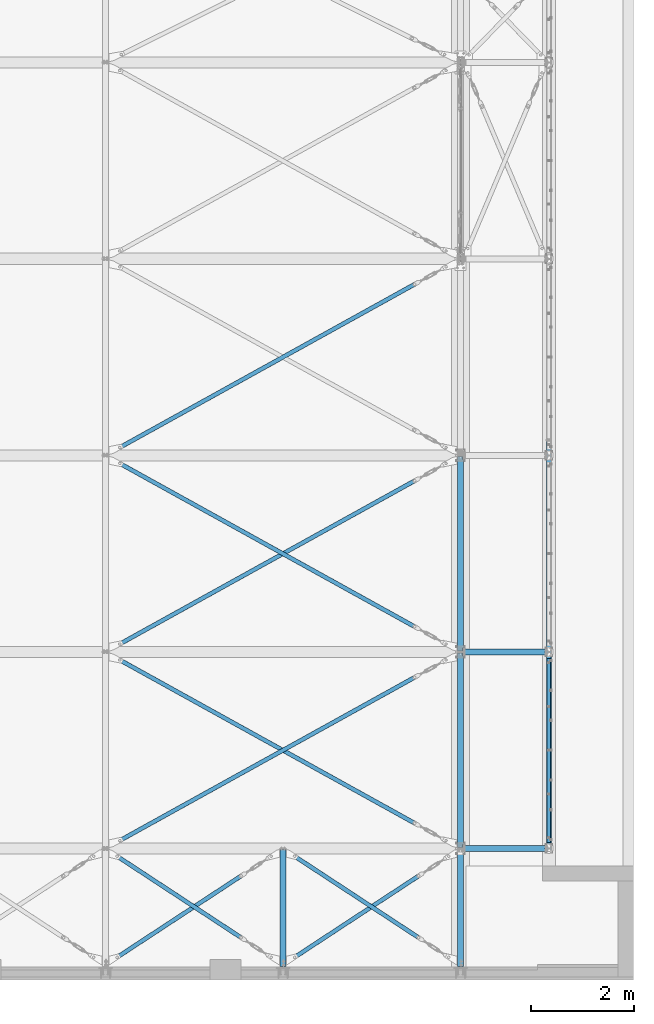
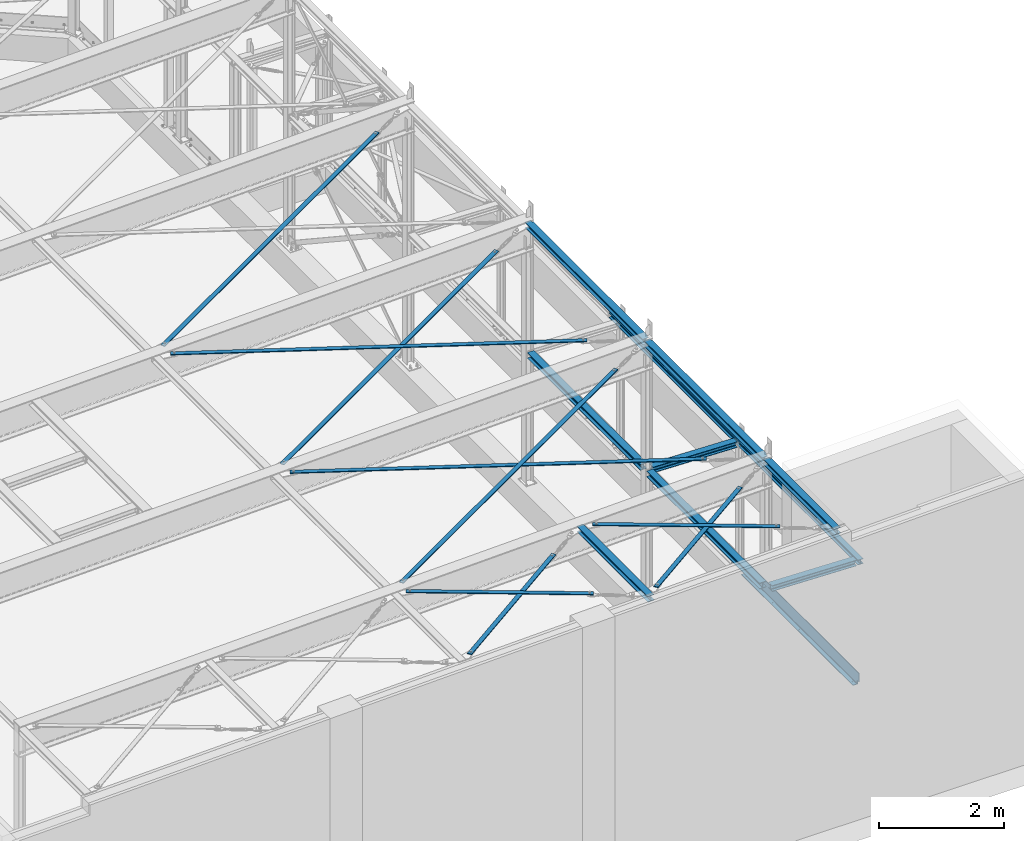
# One storey, part 16 of 476: 11 members, 8 beams, 56 openings.
"""IFC2X3 building model written with IfcOpenShell, lengths in millimetres."""

from ifc_helpers import new_model, entity, si_unit, converted_unit, frame, frame_2d, origin, origin_with_axes, origin_2d, origin_2d_with_axis, place, context, project, spatial, polyline, rectangle, circle, i_section, l_section, outline, extrude, clip, halfspace, material, element, save


model = new_model("IFC2X3")

# Units and contexts
model_context = context("Model", 3, precision=1e-09, world=origin_with_axes())
ifc_project = project(units=[si_unit("LENGTHUNIT", "METRE", prefix="MILLI"), si_unit("AREAUNIT", "SQUARE_METRE"), si_unit("VOLUMEUNIT", "CUBIC_METRE"), converted_unit("PLANEANGLEUNIT", "DEGREE", entity("IfcPlaneAngleMeasure", 0.01745329), si_unit("PLANEANGLEUNIT", "RADIAN"), dimensions=[0, 0, 0, 0, 0, 0, 0])], contexts=[model_context])

# Site, building, storey
site_placement = place(None, origin_with_axes())
site = spatial("IfcSite", under=ifc_project, at=site_placement, Name="mKR Teilneubau & Sanierung BA1 - Ostfildern", CompositionType="ELEMENT")
building_placement = place(site_placement, origin_with_axes())
building = spatial("IfcBuilding", under=site, at=building_placement, Name="Struktur 1", CompositionType="ELEMENT")
storey_placement = place(building_placement, origin_with_axes())
storey = spatial("IfcBuildingStorey", under=building, at=storey_placement, Name="Default Storey", CompositionType="ELEMENT", Elevation=0.0)

# Member, openings
ifc_material = material(Name="S235JR")
member_1_placement = place(None, frame((21128.924203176, -17867.807035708, 5611.516079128), z_axis=(-0.874571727, -0.484183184, -0.026285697), x_axis=(0.030041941, 0.0, -0.999548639)))
member_1 = element("IfcMember", 1, at=member_1_placement, inside=storey, material=ifc_material, Name="-", ObjectType="-", context=model_context, shape_type="SweptSolid", body=[
    extrude(rectangle(XDim=15.0, YDim=80.0, at=origin_2d()), origin(), (0.0, 0.0, 1.0), 6675.65653727),
])
opening_1_placement = place(member_1_placement, frame((8.0, -0.000317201, 6601.156110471), z_axis=(1.0, 0.0, 0.0), x_axis=(0.0, 1.0, 0.0)))
element("IfcOpeningElement", 2, at=opening_1_placement, cuts=member_1, ObjectType="Opening", context=model_context, shape_type="SweptSolid", body=[
    extrude(circle(Radius=14.501, at=frame_2d((0.0, 14.501), x_axis=(1.0, 0.0))), origin(), (0.0, 0.0, -1.0), 16.0),
])
opening_2_placement = place(member_1_placement, frame((8.0, -0.000317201, 45.499573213), z_axis=(1.0, 0.0, 0.0), x_axis=(0.0, 1.0, 0.0)))
element("IfcOpeningElement", 3, at=opening_2_placement, cuts=member_1, ObjectType="Opening", context=model_context, shape_type="SweptSolid", body=[
    extrude(circle(Radius=14.501, at=frame_2d((0.0, 14.501), x_axis=(1.0, 0.0))), origin(), (0.0, 0.0, -1.0), 16.0),
])

member_2_placement = place(None, frame((21128.924203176, -16943.540722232, 5611.516079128), z_axis=(0.874571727, -0.484183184, 0.026285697), x_axis=(0.030041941, 0.0, -0.999548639)))
member_2 = element("IfcMember", 4, at=member_2_placement, inside=storey, material=ifc_material, Name="-", ObjectType="-", context=model_context, shape_type="SweptSolid", body=[
    extrude(rectangle(XDim=15.0, YDim=80.0, at=origin_2d()), origin(), (0.0, 0.0, -1.0), 6675.65653727),
])
opening_3_placement = place(member_2_placement, frame((8.0, -0.000317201, -60.000573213), z_axis=(-1.0, 0.0, 0.0), x_axis=(0.0, 0.0, -1.0)))
element("IfcOpeningElement", 5, at=opening_3_placement, cuts=member_2, ObjectType="Opening", context=model_context, shape_type="SweptSolid", body=[
    extrude(circle(Radius=14.501, at=origin_2d_with_axis()), origin(), (0.0, 0.0, 1.0), 16.0),
])
opening_4_placement = place(member_2_placement, frame((8.0, -0.000317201, -6615.657110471), z_axis=(-1.0, 0.0, 0.0), x_axis=(0.0, 0.0, -1.0)))
element("IfcOpeningElement", 6, at=opening_4_placement, cuts=member_2, ObjectType="Opening", context=model_context, shape_type="SweptSolid", body=[
    extrude(circle(Radius=14.501, at=origin_2d_with_axis()), origin(), (0.0, 0.0, 1.0), 16.0),
])

member_3_placement = place(None, frame((21128.924203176, -14047.807035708, 5611.516079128), z_axis=(-0.874571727, -0.484183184, -0.026285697), x_axis=(0.030041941, 0.0, -0.999548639)))
member_3 = element("IfcMember", 7, at=member_3_placement, inside=storey, material=ifc_material, Name="-", ObjectType="-", context=model_context, shape_type="SweptSolid", body=[
    extrude(rectangle(XDim=15.0, YDim=80.0, at=origin_2d()), origin(), (0.0, 0.0, 1.0), 6675.65653727),
])
opening_5_placement = place(member_3_placement, frame((8.0, -0.000317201, 6601.156110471), z_axis=(1.0, 0.0, 0.0), x_axis=(0.0, 1.0, 0.0)))
element("IfcOpeningElement", 8, at=opening_5_placement, cuts=member_3, ObjectType="Opening", context=model_context, shape_type="SweptSolid", body=[
    extrude(circle(Radius=14.501, at=frame_2d((0.0, 14.501), x_axis=(1.0, 0.0))), origin(), (0.0, 0.0, -1.0), 16.0),
])
opening_6_placement = place(member_3_placement, frame((8.0, -0.000317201, 45.499573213), z_axis=(1.0, 0.0, 0.0), x_axis=(0.0, 1.0, 0.0)))
element("IfcOpeningElement", 9, at=opening_6_placement, cuts=member_3, ObjectType="Opening", context=model_context, shape_type="SweptSolid", body=[
    extrude(circle(Radius=14.501, at=frame_2d((0.0, 14.501), x_axis=(1.0, 0.0))), origin(), (0.0, 0.0, -1.0), 16.0),
])

member_4_placement = place(None, frame((21128.924203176, -10227.807035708, 5611.516079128), z_axis=(-0.874571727, -0.484183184, -0.026285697), x_axis=(0.030041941, 0.0, -0.999548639)))
member_4 = element("IfcMember", 10, at=member_4_placement, inside=storey, material=ifc_material, Name="-", ObjectType="-", context=model_context, shape_type="SweptSolid", body=[
    extrude(rectangle(XDim=15.0, YDim=80.0, at=origin_2d()), origin(), (0.0, 0.0, 1.0), 6675.65653727),
])
opening_7_placement = place(member_4_placement, frame((8.0, -0.000317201, 6601.156110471), z_axis=(1.0, 0.0, 0.0), x_axis=(0.0, 1.0, 0.0)))
element("IfcOpeningElement", 11, at=opening_7_placement, cuts=member_4, ObjectType="Opening", context=model_context, shape_type="SweptSolid", body=[
    extrude(circle(Radius=14.501, at=frame_2d((0.0, 14.501), x_axis=(1.0, 0.0))), origin(), (0.0, 0.0, -1.0), 16.0),
])
opening_8_placement = place(member_4_placement, frame((8.0, -0.000317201, 45.499573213), z_axis=(1.0, 0.0, 0.0), x_axis=(0.0, 1.0, 0.0)))
element("IfcOpeningElement", 12, at=opening_8_placement, cuts=member_4, ObjectType="Opening", context=model_context, shape_type="SweptSolid", body=[
    extrude(circle(Radius=14.501, at=frame_2d((0.0, 14.501), x_axis=(1.0, 0.0))), origin(), (0.0, 0.0, -1.0), 16.0),
])

member_5_placement = place(None, frame((15240.470769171, -23372.366687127, 5434.458017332), z_axis=(0.835791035, 0.548472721, 0.025120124), x_axis=(0.030041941, 0.0, -0.999548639)))
member_5 = element("IfcMember", 13, at=member_5_placement, inside=storey, material=ifc_material, Name="-", ObjectType="-", context=model_context, shape_type="SweptSolid", body=[
    extrude(rectangle(XDim=15.0, YDim=80.0, at=origin_2d()), origin(), (0.0, 0.0, 1.0), 3007.407059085),
])
opening_9_placement = place(member_5_placement, frame((8.000309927, 12.125377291, 67.953252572), z_axis=(1.0, 1.2327e-05, -1.8792e-05), x_axis=(-1.2327e-05, 1.0, 0.0)))
element("IfcOpeningElement", 14, at=opening_9_placement, cuts=member_5, ObjectType="Opening", context=model_context, shape_type="SweptSolid", body=[
    extrude(circle(Radius=14.501, at=frame_2d((-12.125278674, -7.953402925), x_axis=(1.0, 0.0))), origin(), (0.0, 0.0, -1.0), 16.000619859),
])
opening_10_placement = place(member_5_placement, frame((8.0, 0.001174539, 2947.407059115), z_axis=(-1.0, 0.0, 0.0), x_axis=(0.0, 0.917231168, -0.398355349)))
element("IfcOpeningElement", 15, at=opening_10_placement, cuts=member_5, ObjectType="Opening", context=model_context, shape_type="SweptSolid", body=[
    extrude(circle(Radius=14.501, at=origin_2d_with_axis()), origin(), (0.0, 0.0, 1.0), 16.0),
])

member_6_placement = place(None, frame((18690.469548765, -21341.696980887, 5538.149481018), z_axis=(-0.835791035, 0.548472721, -0.025120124), x_axis=(0.030041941, 0.0, -0.999548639)))
member_6 = element("IfcMember", 16, at=member_6_placement, inside=storey, material=ifc_material, Name="-", ObjectType="-", context=model_context, shape_type="SweptSolid", body=[
    extrude(rectangle(XDim=15.0, YDim=80.0, at=origin_2d()), origin(), (0.0, 0.0, -1.0), 3007.407259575),
])
opening_11_placement = place(member_6_placement, frame((8.000309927, 9.8616e-05, -59.999849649), z_axis=(-1.0, -1.2327e-05, -1.8792e-05), x_axis=(0.0, -0.836168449, 0.548472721)))
element("IfcOpeningElement", 17, at=opening_11_placement, cuts=member_6, ObjectType="Opening", context=model_context, shape_type="SweptSolid", body=[
    extrude(circle(Radius=14.501, at=origin_2d_with_axis()), origin(), (0.0, 0.0, 1.0), 16.000619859),
])
opening_12_placement = place(member_6_placement, frame((8.0, 0.001480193, -2947.407259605), z_axis=(-1.0, 0.0, 0.0), x_axis=(0.0, 0.0, 1.0)))
element("IfcOpeningElement", 18, at=opening_12_placement, cuts=member_6, ObjectType="Opening", context=model_context, shape_type="SweptSolid", body=[
    extrude(circle(Radius=14.501, at=origin_2d_with_axis()), origin(), (0.0, 0.0, 1.0), 16.0),
])

member_7_placement = place(None, frame((18690.469548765, -23372.366687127, 5538.149481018), z_axis=(0.835791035, 0.548472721, 0.025120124), x_axis=(0.030041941, 0.0, -0.999548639)))
member_7 = element("IfcMember", 19, at=member_7_placement, inside=storey, material=ifc_material, Name="-", ObjectType="-", context=model_context, shape_type="SweptSolid", body=[
    extrude(rectangle(XDim=15.0, YDim=80.0, at=origin_2d()), origin(), (0.0, 0.0, 1.0), 3007.407059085),
])
opening_13_placement = place(member_7_placement, frame((8.0, 0.001174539, 2947.407059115), z_axis=(-1.0, 0.0, 0.0), x_axis=(0.0, 0.917231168, -0.398355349)))
element("IfcOpeningElement", 20, at=opening_13_placement, cuts=member_7, ObjectType="Opening", context=model_context, shape_type="SweptSolid", body=[
    extrude(circle(Radius=14.501, at=origin_2d_with_axis()), origin(), (0.0, 0.0, 1.0), 16.0),
])
opening_14_placement = place(member_7_placement, frame((8.000309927, 12.125377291, 67.953252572), z_axis=(1.0, 1.2327e-05, -1.8792e-05), x_axis=(-1.2327e-05, 1.0, 0.0)))
element("IfcOpeningElement", 21, at=opening_14_placement, cuts=member_7, ObjectType="Opening", context=model_context, shape_type="SweptSolid", body=[
    extrude(circle(Radius=14.501, at=frame_2d((-12.125278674, -7.953402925), x_axis=(1.0, 0.0))), origin(), (0.0, 0.0, -1.0), 16.000619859),
])

# Beam, openings
beam_1_placement = place(None, frame((18515.608810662, -21142.915193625, 5468.294713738), z_axis=(0.0, 1.0, 0.0), x_axis=(-0.999548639, 0.0, -0.030041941)))
beam_1 = element("IfcBeam", 22, at=beam_1_placement, inside=storey, material=ifc_material, Name="-", ObjectType="-", context=model_context, shape_type="Clipping", body=[
    clip(extrude(i_section(OverallWidth=120.0, OverallDepth=114.0, WebThickness=5.0, FlangeThickness=8.0, FilletRadius=12.0, at=origin_2d()), origin(), (0.0, 0.0, -1.0), 2376.758685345), halfspace(frame((18671.529776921, -4909.581702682, -100.759685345), z_axis=(0.0, 0.0, -1.0), x_axis=(-0.999548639, -0.030041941, 0.0)), True)),
])
opening_15_placement = place(beam_1_placement, frame((-3.0, -0.001995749, -2311.758695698), z_axis=(1.0, 0.0, 0.0), x_axis=(0.0, 0.0, -1.0)))
element("IfcOpeningElement", 23, at=opening_15_placement, cuts=beam_1, ObjectType="Opening", context=model_context, shape_type="SweptSolid", body=[
    extrude(circle(Radius=9.001, at=frame_2d((35.0, 0.0), x_axis=(1.0, 0.0))), origin(), (0.0, 0.0, 1.0), 6.0),
])
opening_16_placement = place(beam_1_placement, frame((-3.0, -0.001995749, -2311.758695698), z_axis=(1.0, 0.0, 0.0), x_axis=(0.0, 0.0, -1.0)))
element("IfcOpeningElement", 24, at=opening_16_placement, cuts=beam_1, ObjectType="Opening", context=model_context, shape_type="SweptSolid", body=[
    extrude(circle(Radius=9.001, at=frame_2d((-35.0, 0.0), x_axis=(1.0, 0.0))), origin(), (0.0, 0.0, 1.0), 6.0),
])

# Member
member_8_placement = place(None, frame((23768.367449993, -17405.67387897, 3015.594224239), z_axis=(0.999577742, 0.0, -0.029057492), x_axis=(0.0, -1.0, 0.0)))
element("IfcMember", 25, at=member_8_placement, inside=storey, material=ifc_material, Name="-", ObjectType="-", context=model_context, shape_type="Clipping", body=[
    clip(clip(extrude(i_section(OverallWidth=120.0, OverallDepth=114.0, WebThickness=5.0, FlangeThickness=8.0, FilletRadius=12.0, at=origin_2d()), origin(), (0.0, 0.0, -1.0), 1886.313881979), halfspace(frame((-17405.67387897, 3064.336297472, -1632.905263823), z_axis=(0.0, -0.029057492, 0.999577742), x_axis=(-1.0, 0.0, 0.0)), True)), halfspace(frame((-17405.67387897, 3018.934023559, -71.067041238), z_axis=(0.0, 0.029057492, -0.999577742), x_axis=(1.0, 0.0, 0.0)), True)),
])

# Beam, openings
beam_2_placement = place(None, frame((23718.008764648, -21165.67387897, 594.5), z_axis=(0.0, 1.0, 0.0), x_axis=(-1.0, 0.0, 0.0)))
beam_2 = element("IfcBeam", 26, at=beam_2_placement, inside=storey, material=ifc_material, Name="-", ObjectType="-", context=model_context, shape_type="SweptSolid", body=[
    extrude(l_section(Depth=250.0, Width=90.0, Thickness=10.0, FilletRadius=15.0, EdgeRadius=7.5, at=frame_2d((30.5, 29.4))), origin(), (0.0, 0.0, 1.0), 3700.0),
])
opening_17_placement = place(beam_2_placement, frame((-115.7, -14.499, 59.621334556), z_axis=(-1.0, 0.0, 0.0), x_axis=(0.0, 0.0, -1.0)))
element("IfcOpeningElement", 27, at=opening_17_placement, cuts=beam_2, ObjectType="Opening", context=model_context, shape_type="SweptSolid", body=[
    extrude(outline(polyline([(0.0, 0.0), (109.622334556, 0.0), (109.622334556, 130.002), (0.0, 130.002), (0.0, 0.0)])), origin(), (0.0, 0.0, -1.0), 290.2),
])
opening_18_placement = place(beam_2_placement, frame((-115.7, -144.501, 3636.999), z_axis=(-1.0, 0.0, 0.0), x_axis=(0.0, 0.0, 1.0)))
element("IfcOpeningElement", 28, at=opening_18_placement, cuts=beam_2, ObjectType="Opening", context=model_context, shape_type="SweptSolid", body=[
    extrude(outline(polyline([(0.0, 0.0), (91.33902001, 0.0), (91.33902001, 130.002), (0.0, 130.002), (0.0, 0.0)])), origin(), (0.0, 0.0, -1.0), 290.2),
])
opening_19_placement = place(beam_2_placement, frame((34.4, -95.0, 1848.310167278), z_axis=(0.0, 1.0, 0.0), x_axis=(0.0, 0.0, 1.0)))
element("IfcOpeningElement", 29, at=opening_19_placement, cuts=beam_2, ObjectType="Opening", context=model_context, shape_type="SweptSolid", body=[
    extrude(circle(Radius=6.001, at=origin_2d_with_axis()), origin(), (0.0, 0.0, 1.0), 11.0),
])
opening_20_placement = place(beam_2_placement, frame((34.4, -95.0, 1848.310167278), z_axis=(0.0, 1.0, 0.0), x_axis=(0.0, 0.0, 1.0)))
element("IfcOpeningElement", 30, at=opening_20_placement, cuts=beam_2, ObjectType="Opening", context=model_context, shape_type="SweptSolid", body=[
    extrude(circle(Radius=6.001, at=frame_2d((850.0, 0.0), x_axis=(1.0, 0.0))), origin(), (0.0, 0.0, 1.0), 11.0),
])
opening_21_placement = place(beam_2_placement, frame((34.4, -95.0, 1848.310167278), z_axis=(0.0, 1.0, 0.0), x_axis=(0.0, 0.0, 1.0)))
element("IfcOpeningElement", 31, at=opening_21_placement, cuts=beam_2, ObjectType="Opening", context=model_context, shape_type="SweptSolid", body=[
    extrude(circle(Radius=6.001, at=frame_2d((-850.0, 0.0), x_axis=(1.0, 0.0))), origin(), (0.0, 0.0, 1.0), 11.0),
])
opening_22_placement = place(beam_2_placement, frame((34.4, -95.0, 1848.310167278), z_axis=(0.0, 1.0, 0.0), x_axis=(0.0, 0.0, 1.0)))
element("IfcOpeningElement", 32, at=opening_22_placement, cuts=beam_2, ObjectType="Opening", context=model_context, shape_type="SweptSolid", body=[
    extrude(circle(Radius=6.001, at=frame_2d((1700.0, 0.0), x_axis=(1.0, 0.0))), origin(), (0.0, 0.0, 1.0), 11.0),
])
opening_23_placement = place(beam_2_placement, frame((34.4, -95.0, 1848.310167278), z_axis=(0.0, 1.0, 0.0), x_axis=(0.0, 0.0, 1.0)))
element("IfcOpeningElement", 33, at=opening_23_placement, cuts=beam_2, ObjectType="Opening", context=model_context, shape_type="SweptSolid", body=[
    extrude(circle(Radius=6.001, at=frame_2d((-1700.0, 0.0), x_axis=(1.0, 0.0))), origin(), (0.0, 0.0, 1.0), 11.0),
])
opening_24_placement = place(beam_2_placement, frame((-5.1, 13.5, 1850.0), z_axis=(-1.0, 0.0, 0.0), x_axis=(0.0, 0.0, 1.0)))
element("IfcOpeningElement", 34, at=opening_24_placement, cuts=beam_2, ObjectType="Opening", context=model_context, shape_type="SweptSolid", body=[
    extrude(circle(Radius=7.001, at=origin_2d_with_axis()), origin(), (0.0, 0.0, 1.0), 11.0),
])
opening_25_placement = place(beam_2_placement, frame((-5.1, 13.5, 1850.0), z_axis=(-1.0, 0.0, 0.0), x_axis=(0.0, 0.0, 1.0)))
element("IfcOpeningElement", 35, at=opening_25_placement, cuts=beam_2, ObjectType="Opening", context=model_context, shape_type="SweptSolid", body=[
    extrude(circle(Radius=7.001, at=frame_2d((580.0, 0.0), x_axis=(1.0, 0.0))), origin(), (0.0, 0.0, 1.0), 11.0),
])
opening_26_placement = place(beam_2_placement, frame((-5.1, 13.5, 1850.0), z_axis=(-1.0, 0.0, 0.0), x_axis=(0.0, 0.0, 1.0)))
element("IfcOpeningElement", 36, at=opening_26_placement, cuts=beam_2, ObjectType="Opening", context=model_context, shape_type="SweptSolid", body=[
    extrude(circle(Radius=7.001, at=frame_2d((-580.0, 0.0), x_axis=(1.0, 0.0))), origin(), (0.0, 0.0, 1.0), 11.0),
])
opening_27_placement = place(beam_2_placement, frame((-5.1, 13.5, 1850.0), z_axis=(-1.0, 0.0, 0.0), x_axis=(0.0, 0.0, 1.0)))
element("IfcOpeningElement", 37, at=opening_27_placement, cuts=beam_2, ObjectType="Opening", context=model_context, shape_type="SweptSolid", body=[
    extrude(circle(Radius=7.001, at=frame_2d((1160.0, 0.0), x_axis=(1.0, 0.0))), origin(), (0.0, 0.0, 1.0), 11.0),
])
opening_28_placement = place(beam_2_placement, frame((-5.1, 13.5, 1850.0), z_axis=(-1.0, 0.0, 0.0), x_axis=(0.0, 0.0, 1.0)))
element("IfcOpeningElement", 38, at=opening_28_placement, cuts=beam_2, ObjectType="Opening", context=model_context, shape_type="SweptSolid", body=[
    extrude(circle(Radius=7.001, at=frame_2d((-1160.0, 0.0), x_axis=(1.0, 0.0))), origin(), (0.0, 0.0, 1.0), 11.0),
])
opening_29_placement = place(beam_2_placement, frame((-5.1, 13.5, 1850.0), z_axis=(-1.0, 0.0, 0.0), x_axis=(0.0, 0.0, 1.0)))
element("IfcOpeningElement", 39, at=opening_29_placement, cuts=beam_2, ObjectType="Opening", context=model_context, shape_type="SweptSolid", body=[
    extrude(circle(Radius=7.001, at=frame_2d((1740.0, 0.0), x_axis=(1.0, 0.0))), origin(), (0.0, 0.0, 1.0), 11.0),
])
opening_30_placement = place(beam_2_placement, frame((-5.1, 13.5, 1850.0), z_axis=(-1.0, 0.0, 0.0), x_axis=(0.0, 0.0, 1.0)))
element("IfcOpeningElement", 40, at=opening_30_placement, cuts=beam_2, ObjectType="Opening", context=model_context, shape_type="SweptSolid", body=[
    extrude(circle(Radius=7.001, at=frame_2d((-1740.0, 0.0), x_axis=(1.0, 0.0))), origin(), (0.0, 0.0, 1.0), 11.0),
])

# Member
member_9_placement = place(None, frame((23768.367449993, -21225.67387897, 3015.594224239), z_axis=(0.999577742, 0.0, -0.029057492), x_axis=(0.0, -1.0, 0.0)))
element("IfcMember", 41, at=member_9_placement, inside=storey, material=ifc_material, Name="-", ObjectType="-", context=model_context, shape_type="Clipping", body=[
    clip(clip(extrude(i_section(OverallWidth=120.0, OverallDepth=114.0, WebThickness=5.0, FlangeThickness=8.0, FilletRadius=12.0, at=origin_2d()), origin(), (0.0, 0.0, -1.0), 1886.313881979), halfspace(frame((-21225.67387897, 3064.336297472, -1632.905263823), z_axis=(0.0, -0.029057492, 0.999577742), x_axis=(-1.0, 0.0, 0.0)), True)), halfspace(frame((-21225.67387897, 3018.934023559, -71.067041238), z_axis=(0.0, 0.029057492, -0.999577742), x_axis=(1.0, 0.0, 0.0)), True)),
])

# Member, openings
member_10_placement = place(None, frame((15240.470769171, -21341.696980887, 5434.458017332), z_axis=(-0.835791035, 0.548472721, -0.025120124), x_axis=(0.030041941, 0.0, -0.999548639)))
member_10 = element("IfcMember", 42, at=member_10_placement, inside=storey, material=ifc_material, Name="-", ObjectType="-", context=model_context, shape_type="SweptSolid", body=[
    extrude(rectangle(XDim=15.0, YDim=80.0, at=origin_2d()), origin(), (0.0, 0.0, -1.0), 3007.407259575),
])
opening_31_placement = place(member_10_placement, frame((8.000309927, 9.8616e-05, -59.999849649), z_axis=(-1.0, -1.2327e-05, -1.8792e-05), x_axis=(0.0, -0.836168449, 0.548472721)))
element("IfcOpeningElement", 43, at=opening_31_placement, cuts=member_10, ObjectType="Opening", context=model_context, shape_type="SweptSolid", body=[
    extrude(circle(Radius=14.501, at=origin_2d_with_axis()), origin(), (0.0, 0.0, 1.0), 16.000619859),
])
opening_32_placement = place(member_10_placement, frame((8.0, 0.001480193, -2947.407259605), z_axis=(-1.0, 0.0, 0.0), x_axis=(0.0, 0.0, 1.0)))
element("IfcOpeningElement", 44, at=opening_32_placement, cuts=member_10, ObjectType="Opening", context=model_context, shape_type="SweptSolid", body=[
    extrude(circle(Radius=14.501, at=origin_2d_with_axis()), origin(), (0.0, 0.0, 1.0), 16.0),
])

# Beams
for number, where, z_axis, x_axis in (
    (45, (21965.608780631, -13502.915193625, 3068.000017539), (0.0, 1.0, 0.0), (-1.0, 0.0, 0.0)),
    (46, (21965.608780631, -17322.915193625, 3068.000017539), (0.0, 1.0, 0.0), (-1.0, 0.0, 0.0)),
):
    element("IfcBeam", number, at=place(None, frame(where, z_axis=z_axis, x_axis=x_axis)), inside=storey, material=ifc_material, Name="-", ObjectType="-", context=model_context, shape_type="Clipping", body=[
        clip(clip(extrude(i_section(OverallWidth=120.0, OverallDepth=114.0, WebThickness=5.0, FlangeThickness=8.0, FilletRadius=12.0, at=origin_2d()), origin(), (0.0, 0.0, -1.0), 3985.51737069), halfspace(frame((21965.608780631, -3068.000017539, -182.759685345), z_axis=(0.0, 0.0, -1.0), x_axis=(-1.0, 0.0, 0.0)), True)), halfspace(frame((21965.608780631, -3068.000017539, -3802.757685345), z_axis=(0.0, 0.0, 1.0), x_axis=(1.0, 0.0, 0.0)), True)),
    ])

# Beam, openings
beam_3_placement = place(None, frame((21965.608780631, -13502.915193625, 5571.987213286), z_axis=(0.0, 1.0, 0.0), x_axis=(-0.999548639, 0.0, -0.030041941)))
beam_3 = element("IfcBeam", 47, at=beam_3_placement, inside=storey, material=ifc_material, Name="-", ObjectType="-", context=model_context, shape_type="Clipping", body=[
    clip(clip(extrude(i_section(OverallWidth=120.0, OverallDepth=114.0, WebThickness=5.0, FlangeThickness=8.0, FilletRadius=12.0, at=origin_2d()), origin(), (0.0, 0.0, -1.0), 3985.51737069), halfspace(frame((22123.087675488, -4909.582702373, -100.759685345), z_axis=(0.0, 0.0, -1.0), x_axis=(-0.999548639, -0.030041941, 0.0)), True)), halfspace(frame((22123.087675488, -4909.582702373, -3884.757685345), z_axis=(0.0, 0.0, 1.0), x_axis=(0.999548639, 0.030041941, 0.0)), True)),
])
opening_33_placement = place(beam_3_placement, frame((0.0, -1.332627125, -82.758685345), z_axis=(0.0, 1.0, 0.0), x_axis=(0.0, 0.0, -1.0)))
element("IfcOpeningElement", 48, at=opening_33_placement, cuts=beam_3, ObjectType="Opening", context=model_context, shape_type="SweptSolid", body=[
    extrude(outline(polyline([(80.0, 45.0), (80.0, 75.0), (18.0, 75.0), (18.0, 45.0), (80.0, 45.0)])), origin(), (0.0, 0.0, 1.0), 59.665254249),
])
opening_34_placement = place(beam_3_placement, frame((0.0, -58.353598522, -82.758685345), z_axis=(0.0, 1.0, 0.0), x_axis=(0.0, 0.0, -1.0)))
element("IfcOpeningElement", 49, at=opening_34_placement, cuts=beam_3, ObjectType="Opening", context=model_context, shape_type="SweptSolid", body=[
    extrude(outline(polyline([(80.0, 45.0), (80.0, 75.0), (18.0, 75.0), (18.0, 45.0), (80.0, 45.0)])), origin(), (0.0, 0.0, 1.0), 59.707197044),
])
opening_35_placement = place(beam_3_placement, frame((0.0, 58.353598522, -3902.758685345), z_axis=(0.0, -1.0, 0.0), x_axis=(0.0, 0.0, 1.0)))
element("IfcOpeningElement", 50, at=opening_35_placement, cuts=beam_3, ObjectType="Opening", context=model_context, shape_type="SweptSolid", body=[
    extrude(outline(polyline([(80.0, 45.0), (80.0, 75.0), (18.0, 75.0), (18.0, 45.0), (80.0, 45.0)])), origin(), (0.0, 0.0, 1.0), 59.707197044),
])
opening_36_placement = place(beam_3_placement, frame((0.0, 1.332627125, -3902.758685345), z_axis=(0.0, -1.0, 0.0), x_axis=(0.0, 0.0, 1.0)))
element("IfcOpeningElement", 51, at=opening_36_placement, cuts=beam_3, ObjectType="Opening", context=model_context, shape_type="SweptSolid", body=[
    extrude(outline(polyline([(80.0, 45.0), (80.0, 75.0), (18.0, 75.0), (18.0, 45.0), (80.0, 45.0)])), origin(), (0.0, 0.0, 1.0), 59.665254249),
])

beam_4_placement = place(None, frame((21965.608780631, -17322.915193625, 5571.987213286), z_axis=(0.0, 1.0, 0.0), x_axis=(-0.999548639, 0.0, -0.030041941)))
beam_4 = element("IfcBeam", 52, at=beam_4_placement, inside=storey, material=ifc_material, Name="-", ObjectType="-", context=model_context, shape_type="Clipping", body=[
    clip(clip(extrude(i_section(OverallWidth=120.0, OverallDepth=114.0, WebThickness=5.0, FlangeThickness=8.0, FilletRadius=12.0, at=origin_2d()), origin(), (0.0, 0.0, -1.0), 3985.51737069), halfspace(frame((22123.087675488, -4909.582702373, -100.759685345), z_axis=(0.0, 0.0, -1.0), x_axis=(-0.999548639, -0.030041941, 0.0)), True)), halfspace(frame((22123.087675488, -4909.582702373, -3884.757685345), z_axis=(0.0, 0.0, 1.0), x_axis=(0.999548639, 0.030041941, 0.0)), True)),
])
opening_37_placement = place(beam_4_placement, frame((0.0, -1.332627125, -82.758685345), z_axis=(0.0, 1.0, 0.0), x_axis=(0.0, 0.0, -1.0)))
element("IfcOpeningElement", 53, at=opening_37_placement, cuts=beam_4, ObjectType="Opening", context=model_context, shape_type="SweptSolid", body=[
    extrude(outline(polyline([(80.0, 45.0), (80.0, 75.0), (18.0, 75.0), (18.0, 45.0), (80.0, 45.0)])), origin(), (0.0, 0.0, 1.0), 59.665254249),
])
opening_38_placement = place(beam_4_placement, frame((0.0, -58.353598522, -82.758685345), z_axis=(0.0, 1.0, 0.0), x_axis=(0.0, 0.0, -1.0)))
element("IfcOpeningElement", 54, at=opening_38_placement, cuts=beam_4, ObjectType="Opening", context=model_context, shape_type="SweptSolid", body=[
    extrude(outline(polyline([(80.0, 45.0), (80.0, 75.0), (18.0, 75.0), (18.0, 45.0), (80.0, 45.0)])), origin(), (0.0, 0.0, 1.0), 59.707197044),
])
opening_39_placement = place(beam_4_placement, frame((0.0, 58.353598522, -3902.758685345), z_axis=(0.0, -1.0, 0.0), x_axis=(0.0, 0.0, 1.0)))
element("IfcOpeningElement", 55, at=opening_39_placement, cuts=beam_4, ObjectType="Opening", context=model_context, shape_type="SweptSolid", body=[
    extrude(outline(polyline([(80.0, 45.0), (80.0, 75.0), (18.0, 75.0), (18.0, 45.0), (80.0, 45.0)])), origin(), (0.0, 0.0, 1.0), 59.707197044),
])
opening_40_placement = place(beam_4_placement, frame((0.0, 1.332627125, -3902.758685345), z_axis=(0.0, -1.0, 0.0), x_axis=(0.0, 0.0, 1.0)))
element("IfcOpeningElement", 56, at=opening_40_placement, cuts=beam_4, ObjectType="Opening", context=model_context, shape_type="SweptSolid", body=[
    extrude(outline(polyline([(80.0, 45.0), (80.0, 75.0), (18.0, 75.0), (18.0, 45.0), (80.0, 45.0)])), origin(), (0.0, 0.0, 1.0), 59.665254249),
])

beam_5_placement = place(None, frame((21965.608780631, -21142.915193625, 5571.987213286), z_axis=(0.0, 1.0, 0.0), x_axis=(-0.999548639, 0.0, -0.030041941)))
beam_5 = element("IfcBeam", 57, at=beam_5_placement, inside=storey, material=ifc_material, Name="-", ObjectType="-", context=model_context, shape_type="Clipping", body=[
    clip(extrude(i_section(OverallWidth=120.0, OverallDepth=114.0, WebThickness=5.0, FlangeThickness=8.0, FilletRadius=12.0, at=origin_2d()), origin(), (0.0, 0.0, -1.0), 2376.758685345), halfspace(frame((22123.087675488, -4909.582702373, -100.759685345), z_axis=(0.0, 0.0, -1.0), x_axis=(-0.999548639, -0.030041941, 0.0)), True)),
])
opening_41_placement = place(beam_5_placement, frame((-3.0, -0.00299539, -2311.758695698), z_axis=(1.0, 0.0, 0.0), x_axis=(0.0, 0.0, -1.0)))
element("IfcOpeningElement", 58, at=opening_41_placement, cuts=beam_5, ObjectType="Opening", context=model_context, shape_type="SweptSolid", body=[
    extrude(circle(Radius=9.001, at=frame_2d((35.0, 0.0), x_axis=(1.0, 0.0))), origin(), (0.0, 0.0, 1.0), 6.0),
])
opening_42_placement = place(beam_5_placement, frame((-3.0, -0.00299539, -2311.758695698), z_axis=(1.0, 0.0, 0.0), x_axis=(0.0, 0.0, -1.0)))
element("IfcOpeningElement", 59, at=opening_42_placement, cuts=beam_5, ObjectType="Opening", context=model_context, shape_type="SweptSolid", body=[
    extrude(circle(Radius=9.001, at=frame_2d((-35.0, 0.0), x_axis=(1.0, 0.0))), origin(), (0.0, 0.0, 1.0), 6.0),
])
opening_43_placement = place(beam_5_placement, frame((0.0, -1.332627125, -82.758685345), z_axis=(0.0, 1.0, 0.0), x_axis=(0.0, 0.0, -1.0)))
element("IfcOpeningElement", 60, at=opening_43_placement, cuts=beam_5, ObjectType="Opening", context=model_context, shape_type="SweptSolid", body=[
    extrude(outline(polyline([(80.0, 45.0), (80.0, 75.0), (18.0, 75.0), (18.0, 45.0), (80.0, 45.0)])), origin(), (0.0, 0.0, 1.0), 59.665254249),
])
opening_44_placement = place(beam_5_placement, frame((0.0, -58.353598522, -82.758685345), z_axis=(0.0, 1.0, 0.0), x_axis=(0.0, 0.0, -1.0)))
element("IfcOpeningElement", 61, at=opening_44_placement, cuts=beam_5, ObjectType="Opening", context=model_context, shape_type="SweptSolid", body=[
    extrude(outline(polyline([(80.0, 45.0), (80.0, 75.0), (18.0, 75.0), (18.0, 45.0), (80.0, 45.0)])), origin(), (0.0, 0.0, 1.0), 59.707197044),
])

beam_6_placement = place(None, frame((23683.608764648, -13216.362985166, 3018.0), z_axis=(0.0, 1.0, 0.0), x_axis=(-1.0, 0.0, 0.0)))
beam_6 = element("IfcBeam", 62, at=beam_6_placement, inside=storey, material=ifc_material, Name="-", ObjectType="-", context=model_context, shape_type="Clipping", body=[
    clip(extrude(i_section(OverallWidth=100.0, OverallDepth=96.0, WebThickness=5.0, FlangeThickness=8.0, FilletRadius=12.0, at=origin_2d()), origin(), (0.0, 0.0, -1.0), 8069.310893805), halfspace(frame((23683.608764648, -3018.0, -84.311893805), z_axis=(0.0, 0.0, -1.0), x_axis=(-1.0, 0.0, 0.0)), True)),
])
opening_45_placement = place(beam_6_placement, frame((28.0, -48.5, -4121.311893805), z_axis=(0.0, -1.0, 0.0), x_axis=(1.0, 0.0, 0.0)))
element("IfcOpeningElement", 63, at=opening_45_placement, cuts=beam_6, ObjectType="Opening", context=model_context, shape_type="SweptSolid", body=[
    extrude(circle(Radius=7.001, at=frame_2d((0.0, 7.001), x_axis=(1.0, 0.0))), origin(), (0.0, 0.0, -1.0), 9.0),
])
opening_46_placement = place(beam_6_placement, frame((-28.0, -48.5, -4121.311893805), z_axis=(0.0, -1.0, 0.0), x_axis=(1.0, 0.0, 0.0)))
element("IfcOpeningElement", 64, at=opening_46_placement, cuts=beam_6, ObjectType="Opening", context=model_context, shape_type="SweptSolid", body=[
    extrude(circle(Radius=7.001, at=frame_2d((0.0, 7.001), x_axis=(1.0, 0.0))), origin(), (0.0, 0.0, -1.0), 9.0),
])
opening_47_placement = place(beam_6_placement, frame((-28.0, -48.5, -4257.309893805), z_axis=(0.0, -1.0, 0.0), x_axis=(1.0, 0.0, 0.0)))
element("IfcOpeningElement", 65, at=opening_47_placement, cuts=beam_6, ObjectType="Opening", context=model_context, shape_type="SweptSolid", body=[
    extrude(circle(Radius=7.001, at=frame_2d((0.0, -7.001), x_axis=(1.0, 0.0))), origin(), (0.0, 0.0, -1.0), 9.0),
])
opening_48_placement = place(beam_6_placement, frame((-28.0, -48.5, -437.309893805), z_axis=(0.0, -1.0, 0.0), x_axis=(1.0, 0.0, 0.0)))
element("IfcOpeningElement", 66, at=opening_48_placement, cuts=beam_6, ObjectType="Opening", context=model_context, shape_type="SweptSolid", body=[
    extrude(circle(Radius=7.001, at=frame_2d((0.0, -7.001), x_axis=(1.0, 0.0))), origin(), (0.0, 0.0, -1.0), 9.0),
])
opening_49_placement = place(beam_6_placement, frame((28.0, -48.5, -301.311893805), z_axis=(0.0, -1.0, 0.0), x_axis=(1.0, 0.0, 0.0)))
element("IfcOpeningElement", 67, at=opening_49_placement, cuts=beam_6, ObjectType="Opening", context=model_context, shape_type="SweptSolid", body=[
    extrude(circle(Radius=7.001, at=frame_2d((0.0, 7.001), x_axis=(1.0, 0.0))), origin(), (0.0, 0.0, -1.0), 9.0),
])
opening_50_placement = place(beam_6_placement, frame((28.0, -48.5, -437.309893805), z_axis=(0.0, -1.0, 0.0), x_axis=(1.0, 0.0, 0.0)))
element("IfcOpeningElement", 68, at=opening_50_placement, cuts=beam_6, ObjectType="Opening", context=model_context, shape_type="SweptSolid", body=[
    extrude(circle(Radius=7.001, at=frame_2d((0.0, -7.001), x_axis=(1.0, 0.0))), origin(), (0.0, 0.0, -1.0), 9.0),
])
opening_51_placement = place(beam_6_placement, frame((28.0, -48.5, -4257.309893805), z_axis=(0.0, -1.0, 0.0), x_axis=(1.0, 0.0, 0.0)))
element("IfcOpeningElement", 69, at=opening_51_placement, cuts=beam_6, ObjectType="Opening", context=model_context, shape_type="SweptSolid", body=[
    extrude(circle(Radius=7.001, at=frame_2d((0.0, -7.001), x_axis=(1.0, 0.0))), origin(), (0.0, 0.0, -1.0), 9.0),
])
opening_52_placement = place(beam_6_placement, frame((-28.0, -48.5, -301.311893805), z_axis=(0.0, -1.0, 0.0), x_axis=(1.0, 0.0, 0.0)))
element("IfcOpeningElement", 70, at=opening_52_placement, cuts=beam_6, ObjectType="Opening", context=model_context, shape_type="SweptSolid", body=[
    extrude(circle(Radius=7.001, at=frame_2d((0.0, 7.001), x_axis=(1.0, 0.0))), origin(), (0.0, 0.0, -1.0), 9.0),
])
opening_53_placement = place(beam_6_placement, frame((28.0, -48.5, -7941.311893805), z_axis=(0.0, -1.0, 0.0), x_axis=(1.0, 0.0, 0.0)))
element("IfcOpeningElement", 71, at=opening_53_placement, cuts=beam_6, ObjectType="Opening", context=model_context, shape_type="SweptSolid", body=[
    extrude(circle(Radius=7.001, at=frame_2d((0.0, 7.001), x_axis=(1.0, 0.0))), origin(), (0.0, 0.0, -1.0), 9.0),
])
opening_54_placement = place(beam_6_placement, frame((-28.0, -48.5, -7941.311893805), z_axis=(0.0, -1.0, 0.0), x_axis=(1.0, 0.0, 0.0)))
element("IfcOpeningElement", 72, at=opening_54_placement, cuts=beam_6, ObjectType="Opening", context=model_context, shape_type="SweptSolid", body=[
    extrude(circle(Radius=7.001, at=frame_2d((0.0, 7.001), x_axis=(1.0, 0.0))), origin(), (0.0, 0.0, -1.0), 9.0),
])

# Member, openings
member_11_placement = place(None, frame((21128.924203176, -20763.540722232, 5611.516079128), z_axis=(0.874571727, -0.484183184, 0.026285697), x_axis=(0.030041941, 0.0, -0.999548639)))
member_11 = element("IfcMember", 73, at=member_11_placement, inside=storey, material=ifc_material, Name="-", ObjectType="-", context=model_context, shape_type="SweptSolid", body=[
    extrude(rectangle(XDim=15.0, YDim=80.0, at=origin_2d()), origin(), (0.0, 0.0, -1.0), 6675.65653727),
])
opening_55_placement = place(member_11_placement, frame((8.0, -0.000317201, -6615.657110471), z_axis=(-1.0, 0.0, 0.0), x_axis=(0.0, 0.0, -1.0)))
element("IfcOpeningElement", 74, at=opening_55_placement, cuts=member_11, ObjectType="Opening", context=model_context, shape_type="SweptSolid", body=[
    extrude(circle(Radius=14.501, at=origin_2d_with_axis()), origin(), (0.0, 0.0, 1.0), 16.0),
])
opening_56_placement = place(member_11_placement, frame((8.0, -0.000317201, -60.000573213), z_axis=(-1.0, 0.0, 0.0), x_axis=(0.0, 0.0, -1.0)))
element("IfcOpeningElement", 75, at=opening_56_placement, cuts=member_11, ObjectType="Opening", context=model_context, shape_type="SweptSolid", body=[
    extrude(circle(Radius=14.501, at=origin_2d_with_axis()), origin(), (0.0, 0.0, 1.0), 16.0),
])

save(model, "model.ifc")
